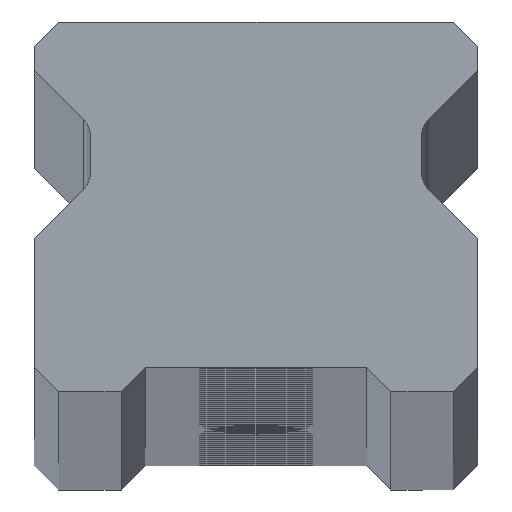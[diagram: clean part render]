
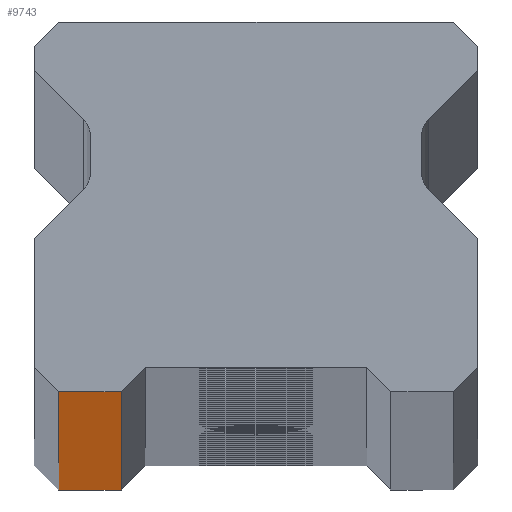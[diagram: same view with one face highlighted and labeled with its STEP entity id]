
A CAD part, top view. The second image highlights one B-rep face of the part: STEP entity #9743.
In plain terms, the highlighted planar face has unit normal (0, -1, 0).
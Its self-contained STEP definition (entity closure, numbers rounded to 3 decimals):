
#326 = EDGE_CURVE ( 'NONE', #5556, #7317, #9383, .T. ) ;
#640 = EDGE_LOOP ( 'NONE', ( #886, #4619, #6871, #3340 ) ) ;
#886 = ORIENTED_EDGE ( 'NONE', *, *, #7828, .T. ) ;
#1667 = DIRECTION ( 'NONE',  ( 1., 0., 0. ) ) ;
#1729 = CARTESIAN_POINT ( 'NONE',  ( 11.5, 0., 1460. ) ) ;
#1730 = CARTESIAN_POINT ( 'NONE',  ( -10.25, 0., -1460. ) ) ;
#1886 = LINE ( 'NONE', #1729, #2015 ) ;
#1897 = AXIS2_PLACEMENT_3D ( 'NONE', #9360, #7994, #9390 ) ;
#2011 = DIRECTION ( 'NONE',  ( 0., 0., 1. ) ) ;
#2015 = VECTOR ( 'NONE', #5659, 1000. ) ;
#2107 = CARTESIAN_POINT ( 'NONE',  ( -10.25, 0., 1460. ) ) ;
#2169 = LINE ( 'NONE', #3898, #8486 ) ;
#2627 = VECTOR ( 'NONE', #1667, 1000. ) ;
#2928 = EDGE_CURVE ( 'NONE', #8797, #7953, #2169, .T. ) ;
#3177 = CARTESIAN_POINT ( 'NONE',  ( 11.5, 0., -1460. ) ) ;
#3311 = VECTOR ( 'NONE', #2011, 1000. ) ;
#3340 = ORIENTED_EDGE ( 'NONE', *, *, #2928, .T. ) ;
#3898 = CARTESIAN_POINT ( 'NONE',  ( -10.25, 0., 1460. ) ) ;
#3977 = LINE ( 'NONE', #3177, #2627 ) ;
#4287 = FACE_OUTER_BOUND ( 'NONE', #640, .T. ) ;
#4619 = ORIENTED_EDGE ( 'NONE', *, *, #326, .T. ) ;
#4704 = CARTESIAN_POINT ( 'NONE',  ( -7., 0., 1460. ) ) ;
#4858 = PLANE ( 'NONE',  #1897 ) ;
#5182 = CARTESIAN_POINT ( 'NONE',  ( -7., 0., -1460. ) ) ;
#5556 = VERTEX_POINT ( 'NONE', #7983 ) ;
#5659 = DIRECTION ( 'NONE',  ( 1., 0., 0. ) ) ;
#6871 = ORIENTED_EDGE ( 'NONE', *, *, #8995, .F. ) ;
#7317 = VERTEX_POINT ( 'NONE', #4704 ) ;
#7828 = EDGE_CURVE ( 'NONE', #7953, #5556, #3977, .T. ) ;
#7953 = VERTEX_POINT ( 'NONE', #1730 ) ;
#7983 = CARTESIAN_POINT ( 'NONE',  ( -7., 0., -1460. ) ) ;
#7994 = DIRECTION ( 'NONE',  ( 0., 1., 0. ) ) ;
#8486 = VECTOR ( 'NONE', #9239, 1000. ) ;
#8797 = VERTEX_POINT ( 'NONE', #2107 ) ;
#8995 = EDGE_CURVE ( 'NONE', #8797, #7317, #1886, .T. ) ;
#9239 = DIRECTION ( 'NONE',  ( 0., 0., -1. ) ) ;
#9360 = CARTESIAN_POINT ( 'NONE',  ( 11.5, 0., 1460. ) ) ;
#9383 = LINE ( 'NONE', #5182, #3311 ) ;
#9390 = DIRECTION ( 'NONE',  ( -1., 0., 0. ) ) ;
#9743 = ADVANCED_FACE ( 'NONE', ( #4287 ), #4858, .F. ) ;
